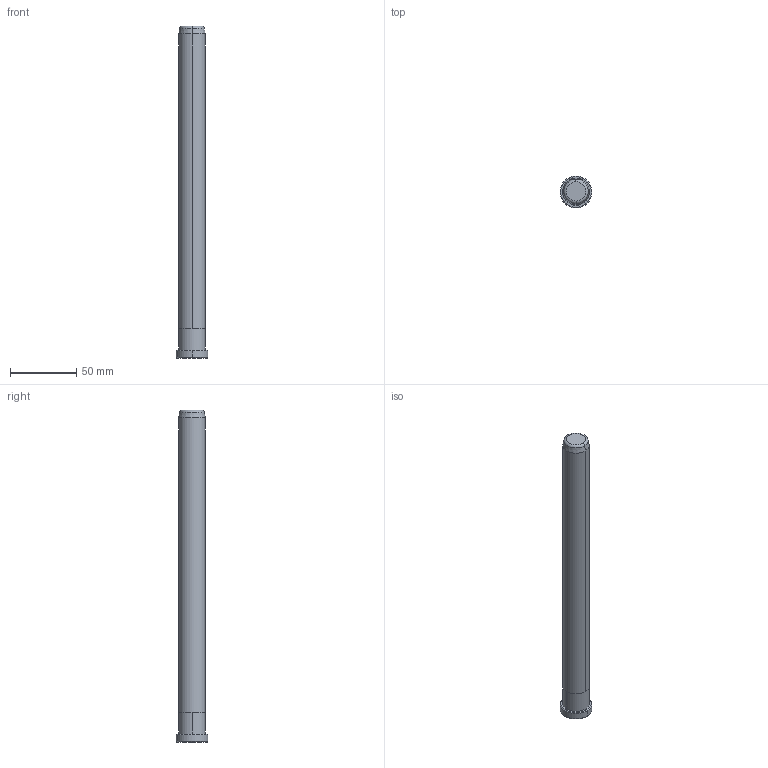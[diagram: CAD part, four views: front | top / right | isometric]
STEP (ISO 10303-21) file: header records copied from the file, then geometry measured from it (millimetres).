
FILE_DESCRIPTION((''),'2;1');
FILE_NAME('B80820250','2018-01-06T',('MANU'),(''),'PRO/ENGINEER BY PARAMETRIC TECHNOLOGY CORPORATION, 2012130','PRO/ENGINEER BY PARAMETRIC TECHNOLOGY CORPORATION, 2012130','');
FILE_SCHEMA(('CONFIG_CONTROL_DESIGN'));
Length unit declared in the file: millimetre
Products named in the file (1): B80820250
Bounding box: 24 x 24 x 250 mm (x, y, z)
Volume: 79137.7 mm3; surface area: 16533.9 mm2
Topology: 1 solids, 1 shells, 18 faces, 34 edges, 20 vertices
Faces by surface type: cone 6, cylinder 6, plane 4, torus 2
Entity records: 494 total; most frequent: DIRECTION 92, CARTESIAN_POINT 72, ORIENTED_EDGE 68, AXIS2_PLACEMENT_3D 40, EDGE_CURVE 34, CIRCLE 22, VERTEX_POINT 20, EDGE_LOOP 20
